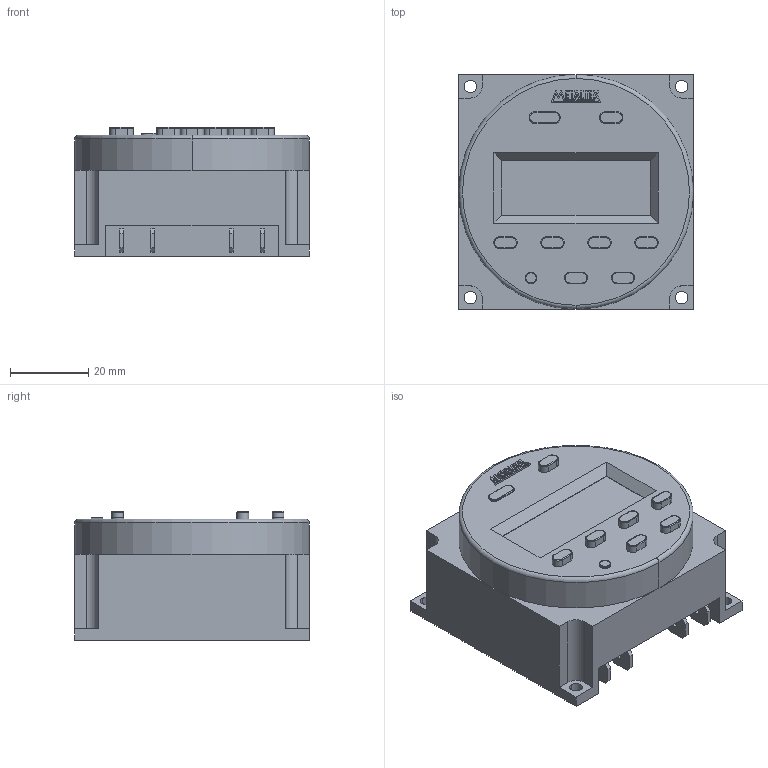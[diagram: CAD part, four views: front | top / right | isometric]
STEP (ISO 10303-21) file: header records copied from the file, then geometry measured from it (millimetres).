
FILE_DESCRIPTION(('FreeCAD Model'),'2;1');
FILE_NAME('Open CASCADE Shape Model','2022-12-12T09:45:28',( 'Engenharia Meltaltex'),('Engenharia Meltaltex'), 'Open CASCADE STEP processor 7.5','FreeCAD','Unknown');
FILE_SCHEMA(('AUTOMOTIVE_DESIGN { 1 0 10303 214 1 1 1 1 }'));
Length unit declared in the file: millimetre
Products named in the file (3): TM-P; Body; Open CASCADE STEP translator 7.5 2.2
Assembly tree (2 placements, depth 2):
  TM-P
    Body
    Open CASCADE STEP translator 7.5 2.2
Bounding box: 60 x 60 x 33.1 mm (x, y, z)
Volume: 97762.1 mm3; surface area: 15093.9 mm2
Topology: 8 solids, 8 shells, 458 faces, 1175 edges, 768 vertices
Faces by surface type: plane 231, bspline 139, cylinder 68, torus 20
Entity records: 15962 total; most frequent: CARTESIAN_POINT 5605, ORIENTED_EDGE 2350, DIRECTION 1649, EDGE_CURVE 1175, VERTEX_POINT 768, LINE 681, VECTOR 681, FACE_BOUND 513
